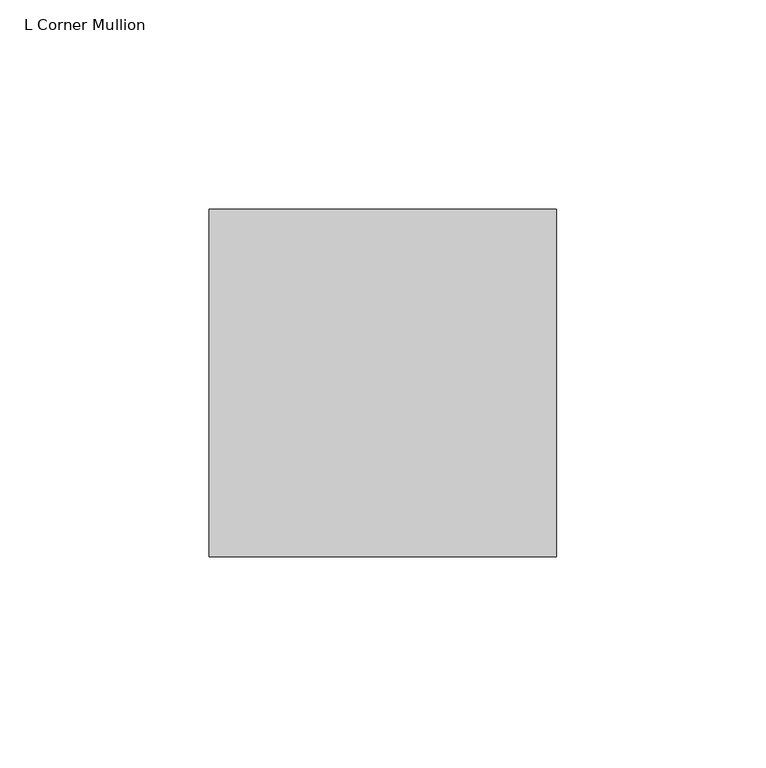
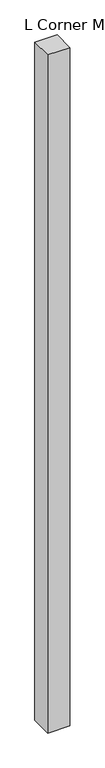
"""IFC4 building model written with IfcOpenShell, lengths in millimetres: member geometry, L Corner Mullion : JUNCTION-T2 85-T2CJ."""

import ifcopenshell
import ifcopenshell.guid

model = None  # the IFC model being written
_history = None  # IfcOwnerHistory: only IFC2X3 demands one
_inside = {}  # id of a spatial element -> (the spatial element, [elements in it])
_under = {}  # id of a project, library or spatial element -> (it, [spatial elements below it])
_declared = {}  # id of a project -> (the project, [libraries it declares])
_typed = {}  # id of a type object -> (the type object, [elements of that type])
_made_of = {}  # id of a material, layer set ... -> (it, [elements and type objects made of it])


def new_model(schema):
    """Start an empty IFC model of exactly this schema.

    Asked for "IFC4X3", IfcOpenShell would pick the latest addendum, in which some entities
    have other attributes; the version numbers below select the first issue.
    IFC2X3 requires an IfcOwnerHistory on every rooted entity: one is made here for all.
    """
    global model, _history
    if schema == "IFC4X3":
        model = ifcopenshell.file(schema_version=(4, 3, 0, 0))
    else:
        model = ifcopenshell.file(schema=schema)
    _inside.clear()
    _under.clear()
    _declared.clear()
    _typed.clear()
    _made_of.clear()
    _history = None
    if model.schema == "IFC2X3":
        org = make("IfcOrganization", Name="unknown")
        user = make(
            "IfcPersonAndOrganization",
            ThePerson=make("IfcPerson", FamilyName="unknown"),
            TheOrganization=org,
        )
        app = make(
            "IfcApplication",
            ApplicationDeveloper=org,
            Version="unknown",
            ApplicationFullName="unknown",
            ApplicationIdentifier="unknown",
        )
        _history = make(
            "IfcOwnerHistory",
            OwningUser=user,
            OwningApplication=app,
            ChangeAction="ADDED",
            CreationDate=0,
        )
    return model


def make(cls, **values):
    """One entity of the class cls with the attributes given. An attribute that is None is left unset."""
    return model.create_entity(
        cls, **{name: value for name, value in values.items() if value is not None}
    )


def rooted(cls, **values):
    """An entity with a GlobalId (a new one), such as an element, a storey or a relation."""
    return make(cls, GlobalId=ifcopenshell.guid.new(), OwnerHistory=_history, **values)


def si_unit(unit_type, name, prefix=None):
    """IfcSIUnit, for example si_unit("LENGTHUNIT", "METRE", prefix="MILLI")."""
    return make("IfcSIUnit", UnitType=unit_type, Prefix=prefix, Name=name)


def assignment(units):
    """IfcUnitAssignment: the units of a project."""
    return None if units is None else make("IfcUnitAssignment", Units=units)


def point(xyz):
    """IfcCartesianPoint."""
    return None if xyz is None else make("IfcCartesianPoint", Coordinates=xyz)


def direction(xyz):
    """IfcDirection."""
    return None if xyz is None else make("IfcDirection", DirectionRatios=xyz)


def frame(location, z_axis=None, x_axis=None):
    """IfcAxis2Placement3D, a coordinate frame: its origin and axes. An axis left out is left unset."""
    return make(
        "IfcAxis2Placement3D",
        Location=point(location),
        Axis=direction(z_axis),
        RefDirection=direction(x_axis),
    )


def origin():
    """The frame at (0, 0, 0) with its axes left unset."""
    return frame((0.0, 0.0, 0.0))


def place(relative_to, where):
    """IfcLocalPlacement: puts the frame where relative to a parent placement (None: the world)."""
    return make(
        "IfcLocalPlacement", PlacementRelTo=relative_to, RelativePlacement=where
    )


def context(
    kind, dimensions, precision=None, world=None, true_north=None, identifier=None
):
    """IfcGeometricRepresentationContext, for example the 3D "Model" context."""
    return make(
        "IfcGeometricRepresentationContext",
        ContextIdentifier=identifier,
        ContextType=kind,
        CoordinateSpaceDimension=dimensions,
        Precision=precision,
        WorldCoordinateSystem=world,
        TrueNorth=true_north,
    )


def project(units=None, contexts=None):
    """IfcProject with its units and contexts."""
    return rooted(
        "IfcProject",
        Name="project",
        RepresentationContexts=contexts,
        UnitsInContext=assignment(units),
    )


def spatial(cls, under=None, at=None, **own):
    """A site, building, storey or space (cls), placed at a placement, below another one or the project."""
    s = rooted(cls, ObjectPlacement=at, **own)
    if under is not None:
        _under.setdefault(under.id(), (under, []))[1].append(s)
    return s


def polyline(points):
    """IfcPolyline through the points."""
    return make("IfcPolyline", Points=[point(p) for p in points])


def outline(outer, holes=None, kind="AREA"):
    """IfcArbitraryClosedProfileDef: a profile drawn as a closed curve; with holes, ...WithVoids."""
    if holes is None:
        return make("IfcArbitraryClosedProfileDef", ProfileType=kind, OuterCurve=outer)
    return make(
        "IfcArbitraryProfileDefWithVoids",
        ProfileType=kind,
        OuterCurve=outer,
        InnerCurves=holes,
    )


def extrude(swept, where, along, depth):
    """IfcExtrudedAreaSolid: the profile swept, set in the frame where, extruded along a direction by depth."""
    return make(
        "IfcExtrudedAreaSolid",
        SweptArea=swept,
        Position=where,
        ExtrudedDirection=direction(along),
        Depth=depth,
    )


def shape(context_of_items, identifier, shape_type, items):
    """IfcShapeRepresentation: the items that make up one representation, for example the "Body"."""
    return make(
        "IfcShapeRepresentation",
        ContextOfItems=context_of_items,
        RepresentationIdentifier=identifier,
        RepresentationType=shape_type,
        Items=items,
    )


def source(mapping_origin, context_of_items, identifier, shape_type, items):
    """IfcRepresentationMap: a shape defined once, which mapped items show again and again."""
    return make(
        "IfcRepresentationMap",
        MappingOrigin=mapping_origin,
        MappedRepresentation=shape(context_of_items, identifier, shape_type, items),
    )


def transform(
    local_origin,
    x_axis=None,
    y_axis=None,
    z_axis=None,
    scale=None,
    scale2=None,
    scale3=None,
    uniform=True,
):
    """IfcCartesianTransformationOperator3D, or its non-uniform kind. x_axis, y_axis, z_axis: its Axis1, 2, 3."""
    if uniform:
        return make(
            "IfcCartesianTransformationOperator3D",
            Axis1=direction(x_axis),
            Axis2=direction(y_axis),
            LocalOrigin=point(local_origin),
            Scale=scale,
            Axis3=direction(z_axis),
        )
    return make(
        "IfcCartesianTransformationOperator3DnonUniform",
        Axis1=direction(x_axis),
        Axis2=direction(y_axis),
        LocalOrigin=point(local_origin),
        Scale=scale,
        Axis3=direction(z_axis),
        Scale2=scale2,
        Scale3=scale3,
    )


def mapped(mapping_source, mapping_target):
    """IfcMappedItem: shows the shape of a source again, moved by a transform."""
    return make(
        "IfcMappedItem", MappingSource=mapping_source, MappingTarget=mapping_target
    )


def made_of(thing, what):
    """Note that an element or type object is made of a material, layer set ...; save() writes the relation."""
    if what is not None:
        _made_of.setdefault(what.id(), (what, []))[1].append(thing)
    return thing


def element(
    cls,
    number,
    at=None,
    inside=None,
    cuts=None,
    type_object=None,
    material=None,
    context=None,
    identifier="Body",
    shape_type=None,
    held_by="IfcProductDefinitionShape",
    body=None,
    shapes=None,
    **own,
):
    """One element of the class cls, such as IfcWall. Its Tag is "e" and its number.

    at: its placement. inside: the storey or other place that contains it. cuts: it is an
    opening in that element (IfcRelVoidsElement). A single representation is given by context,
    identifier, shape_type and body (its items); several are given by shapes. held_by: the class
    of the entity that holds the representations. save() writes the other relations.
    """
    e = rooted(cls, Tag="e%d" % number, ObjectPlacement=at, **own)
    if body is not None:
        shapes = [shape(context, identifier, shape_type, body)]
    if shapes is not None:
        e.Representation = make(held_by, Representations=shapes)
    if inside is not None:
        _inside.setdefault(inside.id(), (inside, []))[1].append(e)
    if cuts is not None:
        rooted(
            "IfcRelVoidsElement", RelatingBuildingElement=cuts, RelatedOpeningElement=e
        )
    if type_object is not None:
        _typed.setdefault(type_object.id(), (type_object, []))[1].append(e)
    return made_of(e, material)


def aggregate(whole, parts):
    """IfcRelAggregates: a whole, such as a stair, and the parts it consists of."""
    return rooted("IfcRelAggregates", RelatingObject=whole, RelatedObjects=parts)


def save(model, path):
    """Write the relations noted so far, then the file.

    IfcRelAggregates (storeys below a building ...), IfcRelContainedInSpatialStructure (elements
    in a storey), IfcRelDefinesByType, IfcRelAssociatesMaterial and IfcRelDeclares: one each for
    every whole, place, type object, material and project.
    """
    for whole, parts in _under.values():
        aggregate(whole, parts)
    for where, things in _inside.values():
        rooted(
            "IfcRelContainedInSpatialStructure",
            RelatedElements=things,
            RelatingStructure=where,
        )
    for kind, things in _typed.values():
        rooted("IfcRelDefinesByType", RelatedObjects=things, RelatingType=kind)
    for what, things in _made_of.values():
        rooted("IfcRelAssociatesMaterial", RelatedObjects=things, RelatingMaterial=what)
    for by, libraries in _declared.values():
        rooted("IfcRelDeclares", RelatingContext=by, RelatedDefinitions=libraries)
    model.write(path)


def l_corner_mullion_d32c7b96(model_context):
    return source(origin(), model_context, "Body", "SweptSolid", [
        extrude(outline(polyline([(41.5, 41.5), (41.5, -41.5), (-41.5, -41.5), (-41.5, 41.5), (41.5, 41.5)])), frame((0.0, 0.0, -2685.0), z_axis=(0.0, 0.0, 1.0), x_axis=(1.0, 0.0, 0.0)), (0.0, 0.0, 1.0), 2685.0),
    ])


if __name__ == "__main__":
    model = new_model("IFC4")
    model_context = context("Model", 3, world=origin())
    ifc_project = project(units=[si_unit("LENGTHUNIT", "METRE", prefix="MILLI")], contexts=[model_context])
    site = spatial("IfcSite", under=ifc_project)
    building = spatial("IfcBuilding", under=site)
    placement = place(None, origin())
    l_corner_mullion_shape = l_corner_mullion_d32c7b96(model_context)
    element("IfcMember", 1, ObjectType="L Corner Mullion : JUNCTION-T2 85-T2CJ", at=placement, inside=building, context=model_context, shape_type="MappedRepresentation", body=[
        mapped(l_corner_mullion_shape, transform((0.0, 0.0, 0.0), x_axis=(1.0, 0.0, 0.0), y_axis=(0.0, 1.0, 0.0), z_axis=(0.0, 0.0, 1.0))),
    ])
    save(model, "model.ifc")
